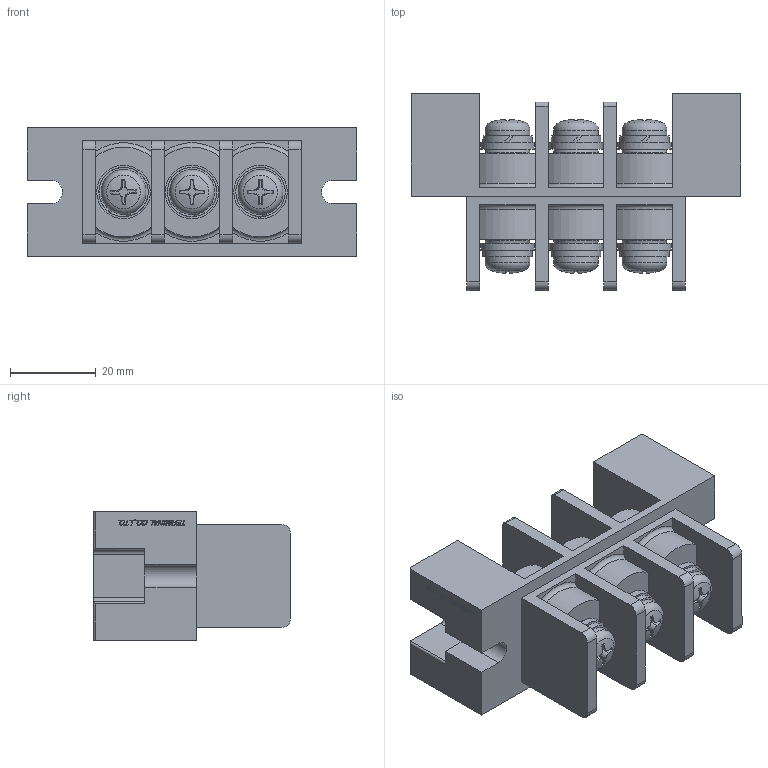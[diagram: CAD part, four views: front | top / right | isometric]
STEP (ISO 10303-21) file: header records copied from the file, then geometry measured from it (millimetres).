
FILE_DESCRIPTION(/* description */ ('Alibre Inc.'),/* implementation_level */ '2;1');
FILE_NAME(/* name */ 'export0',/* time_stamp */ '2016-01-14T19:19:35+09:00',/* author */ (''),/* organization */ (''),/* preprocessor_version */ 'ST-DEVELOPER v14',/* originating_system */ 'Alibre',/* authorisation */ '');
FILE_SCHEMA (('CONFIG_CONTROL_DESIGN'));
Length unit declared in the file: centimetre
Products named in the file (1): ID_1
Bounding box: 77 x 46 x 30 mm (x, y, z)
Volume: 48935.3 mm3; surface area: 20342.6 mm2
Topology: 1 solids, 10 shells, 549 faces, 1419 edges, 937 vertices
Faces by surface type: plane 334, cylinder 97, bspline 52, cone 42, torus 18, sphere 6
Full cylindrical faces by diameter (mm): 4.55 x2, 6 x9, 10.5 x12, 10.75 x6, 12.5 x6
Entity records: 16593 total; most frequent: CARTESIAN_POINT 4166, ORIENTED_EDGE 2682, DIRECTION 2077, EDGE_CURVE 1341, VERTEX_POINT 918, VECTOR 807, LINE 807, AXIS2_PLACEMENT_3D 799
